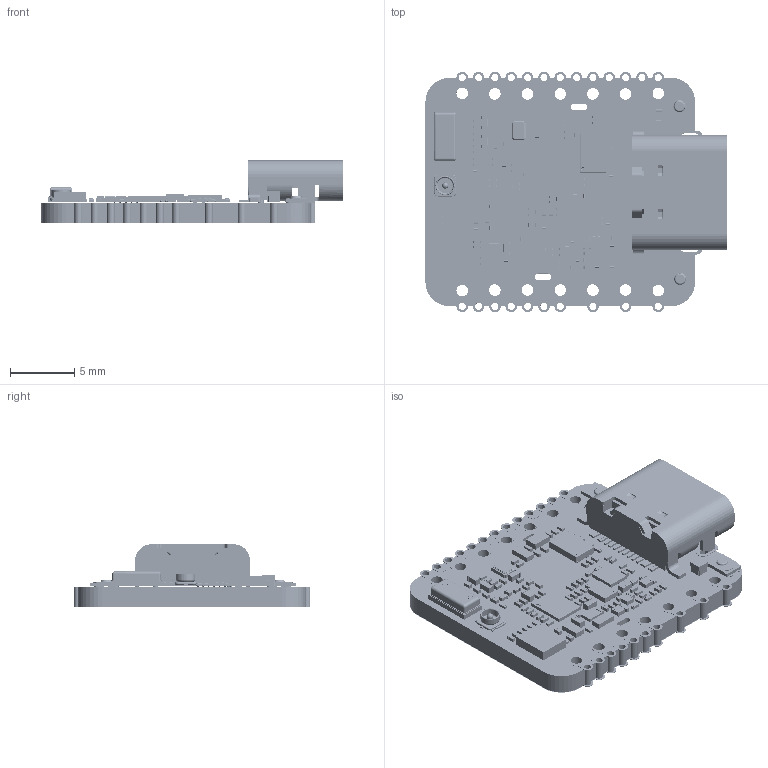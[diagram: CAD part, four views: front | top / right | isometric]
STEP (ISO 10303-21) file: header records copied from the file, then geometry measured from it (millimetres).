
FILE_DESCRIPTION(('KiCad electronic assembly'),'2;1');
FILE_NAME('XIAO nRF54l15.step','2026-01-30T17:15:43',('Pcbnew'),('Kicad' ),'Open CASCADE STEP processor 7.9','KiCad to STEP converter', 'Unknown');
FILE_SCHEMA(('AUTOMOTIVE_DESIGN { 1 0 10303 214 1 1 1 1 }'));
Length unit declared in the file: millimetre
Products named in the file (37): XIAO nRF54l15 1; L_0201_0603Metric; R_0201_0603Metric; C_0201_0603Metric; USON8_3x2x0_6mm; C_0402_1005Metric; WLCSP4-0.4-0.77X0.77X0.33MM; XIAO nRF54l15 1.11.1; 312030722_MSM261DGT006; XIAO nRF54l15 1.16.1; TS-1001S_3d v2; CRYSTAL-SMD_4P-L1.6-W1.2-BL v1; SOLID; LED_0402_1005Metric; R0603; Part 4; Part 3; Part 2; Part 1; WLCSP20; RGB4P-0.65-1X1X0.85MM v2; 310051371_UM3204H; CSP-12_L1.9-W1.4-R4-C3-P0.50-TL~CSP-12_L1.9-W1.4-R4-C3-P0.50-TL~cLGq; 320011419_ST-USB-3316T; BGA-35_L3.1-W2.4-R5-C7-P0.42_NPM1300-CAAA-R; IPEX GEN4; XIAO nRF54l15 1.61.1; Crystal_SMD_MicroCrystal_CM9V-T1A-2Pin_1.6x1.0mm; BGA6-0.35-0.85X1.2X0.4MM; XIAO nRF54l15 1.70.1; LGA-14_3x2.5mm_P0.5mm_LayoutBorder3x4y; L_0402_1005Metric; SOT-883; XIAO nRF54LM20A_pad; XIAO nRF54LM20A_silkscreen; XIAO nRF54LM20A_soldermask; XIAO nRF54LM20A_PCB
Assembly tree (136 placements, depth 3):
  XIAO nRF54l15 1
    L_0201_0603Metric  x7
    R_0201_0603Metric  x42
    C_0201_0603Metric  x45
    USON8_3x2x0_6mm
    C_0402_1005Metric  x5
    WLCSP4-0.4-0.77X0.77X0.33MM  x3
      XIAO nRF54l15 1.11.1
    312030722_MSM261DGT006
      XIAO nRF54l15 1.16.1
    TS-1001S_3d v2  x2
    CRYSTAL-SMD_4P-L1.6-W1.2-BL v1
      SOLID
    LED_0402_1005Metric
    R0603  x3
      Part 4
      Part 3
      Part 2
      Part 1
    WLCSP20
    RGB4P-0.65-1X1X0.85MM v2
    310051371_UM3204H
      CSP-12_L1.9-W1.4-R4-C3-P0.50-TL~CSP-12_L1.9-W1.4-R4-C3-P0.50-TL~cLGq
    320011419_ST-USB-3316T
    BGA-35_L3.1-W2.4-R5-C7-P0.42_NPM1300-CAAA-R
    IPEX GEN4
      XIAO nRF54l15 1.61.1
    Crystal_SMD_MicroCrystal_CM9V-T1A-2Pin_1.6x1.0mm
    BGA6-0.35-0.85X1.2X0.4MM
      XIAO nRF54l15 1.70.1
    LGA-14_3x2.5mm_P0.5mm_LayoutBorder3x4y
    L_0402_1005Metric
    SOT-883
    XIAO nRF54LM20A_pad
    XIAO nRF54LM20A_silkscreen
    XIAO nRF54LM20A_soldermask
    XIAO nRF54LM20A_PCB
Bounding box: 23.4 x 18.68 x 4.93 mm (x, y, z)
Volume: 694.7 mm3; surface area: 2845.2 mm2
Topology: 794 solids, 937 shells, 11833 faces, 36347 edges, 28291 vertices
Faces by surface type: plane 7180, cylinder 3434, bspline 977, sphere 192, torus 46, cone 4
Full cylindrical faces by diameter (mm): 0.052 x103, 0.087 x2, 0.102 x59, 0.2 x28, 0.22 x98, 0.23 x10, 0.24 x12, 0.25 x8, 0.3 x12, 0.55 x69, 0.6 x23, 0.65 x2, 0.8 x2, 0.86 x2, 0.9 x43, 0.95 x28, 1.143 x8, 1.35 x28, 1.6 x8
Entity records: 329456 total; most frequent: CARTESIAN_POINT 77875, DIRECTION 47354, ORIENTED_EDGE 44800, EDGE_CURVE 25332, VERTEX_POINT 18906, LINE 16936, VECTOR 16936, AXIS2_PLACEMENT_3D 15209
